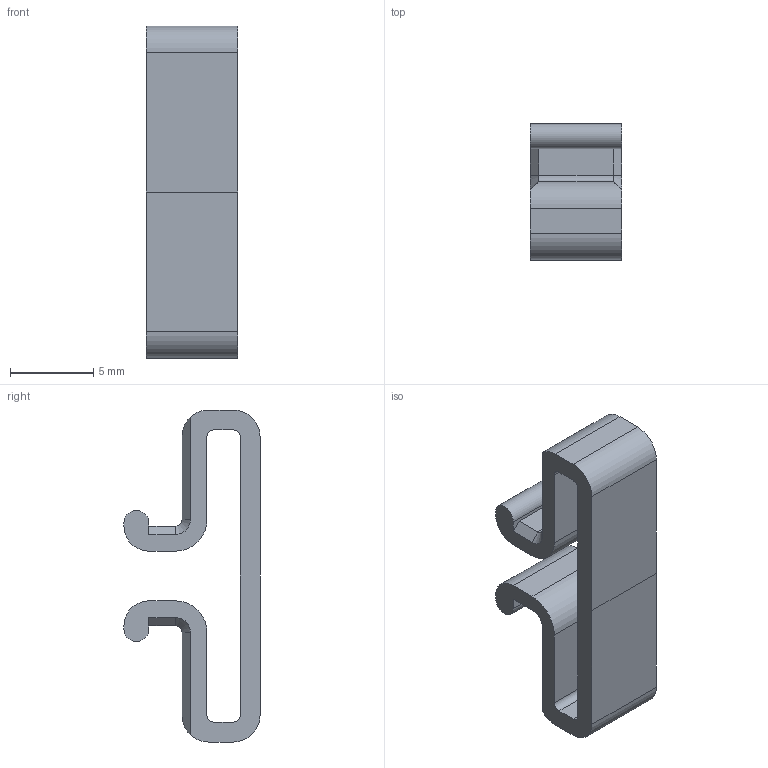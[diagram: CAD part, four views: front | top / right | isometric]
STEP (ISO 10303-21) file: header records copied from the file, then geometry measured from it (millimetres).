
FILE_DESCRIPTION(('CATIA V5 STEP Exchange'),'2;1');
FILE_NAME('D:\_이전 노트북\Cremaker모델링\Cremaker_profile-Metal(4차)-M6(final)\Cable-Cap-1.stp','2020-10-23T05:32:46+00:00',('none'),('none'),'CATIA Version 5 Release 20 GA (IN-10)','CATIA V5 STEP AP203','none');
FILE_SCHEMA(('CONFIG_CONTROL_DESIGN'));
Length unit declared in the file: millimetre
Products named in the file (1): Cable-Cap-1
Bounding box: 5.5 x 8.2 x 20 mm (x, y, z)
Volume: 340.6 mm3; surface area: 641.4 mm2
Topology: 1 solids, 1 shells, 50 faces, 136 edges, 88 vertices
Faces by surface type: plane 30, cylinder 16, cone 4
Entity records: 1560 total; most frequent: CARTESIAN_POINT 289, ORIENTED_EDGE 272, DIRECTION 220, EDGE_CURVE 136, VECTOR 96, LINE 96, VERTEX_POINT 88, AXIS2_PLACEMENT_3D 81
